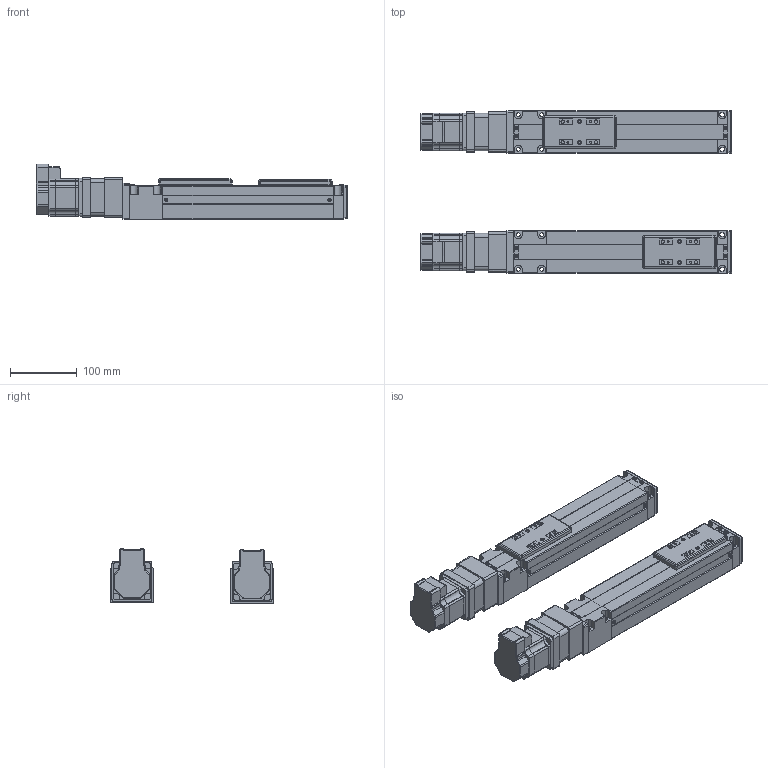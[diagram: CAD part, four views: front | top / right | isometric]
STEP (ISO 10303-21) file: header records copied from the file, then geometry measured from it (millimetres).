
FILE_DESCRIPTION(('STEP AP214'),'1');
FILE_NAME('F:\外形図\3D_DAD2\SCLT6\SCLT6_B\tmp0.step',' ',(' '),(' '),'XStep 1.0',' ',' ');
FILE_SCHEMA(('automotive_design'));
Length unit declared in the file: millimetre
Bounding box: 467 x 244 x 83 mm (x, y, z)
Volume: 3047577.3 mm3; surface area: 561836 mm2
Topology: 54 solids, 54 shells, 2200 faces, 5994 edges, 3932 vertices
Faces by surface type: plane 1718, cylinder 384, bspline 74, sphere 16, cone 8
Entity records: 89297 total; most frequent: CARTESIAN_POINT 14266, ORIENTED_EDGE 11956, DIRECTION 11242, EDGE_CURVE 5978, LINE 5074, VECTOR 5074, VERTEX_POINT 3932, AXIS2_PLACEMENT_3D 3084
